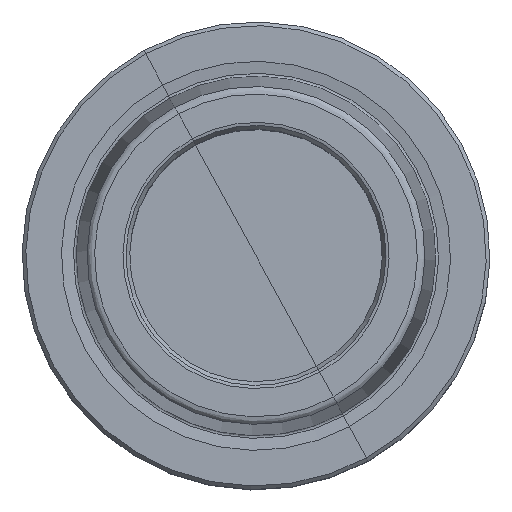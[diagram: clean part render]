
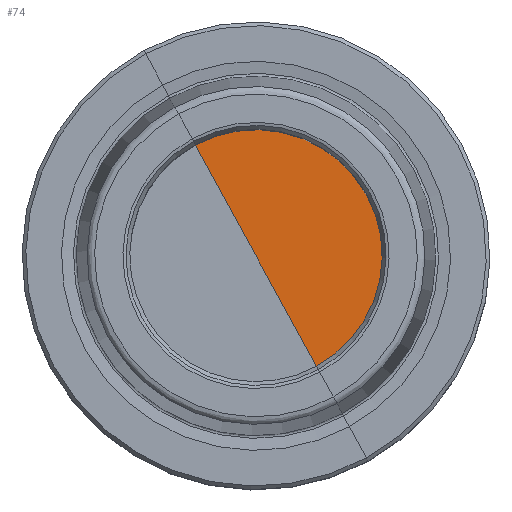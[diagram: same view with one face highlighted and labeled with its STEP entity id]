
A CAD part, top view. The second image highlights one B-rep face of the part: STEP entity #74.
In plain terms, the highlighted planar face has unit normal (0, 0, 1).
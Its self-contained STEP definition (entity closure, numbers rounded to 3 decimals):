
#35=AXIS2_PLACEMENT_3D('Plane Axis2P3D',#32,#33,#34) ;
#66=AXIS2_PLACEMENT_3D('Circle Axis2P3D',#64,#65,$) ;
#32=CARTESIAN_POINT('Axis2P3D Location',(0.,17.,-10.)) ;
#37=CARTESIAN_POINT('Line Origine',(-4.075,7.459,-10.)) ;
#41=CARTESIAN_POINT('Vertex',(0.,0.,-10.)) ;
#43=CARTESIAN_POINT('Vertex',(-8.15,14.919,-10.)) ;
#50=CARTESIAN_POINT('Vertex',(8.15,-14.919,-10.)) ;
#53=CARTESIAN_POINT('Line Origine',(4.075,-7.459,-10.)) ;
#64=CARTESIAN_POINT('Axis2P3D Location',(0.,0.,-10.)) ;
#33=DIRECTION('Axis2P3D Direction',(0.,0.,-1.)) ;
#34=DIRECTION('Axis2P3D XDirection',(0.,-1.,0.)) ;
#38=DIRECTION('Vector Direction',(0.479,-0.878,0.)) ;
#54=DIRECTION('Vector Direction',(-0.479,0.878,0.)) ;
#65=DIRECTION('Axis2P3D Direction',(0.,0.,-1.)) ;
#39=VECTOR('Line Direction',#38,1.) ;
#55=VECTOR('Line Direction',#54,1.) ;
#70=ORIENTED_EDGE('',*,*,#57,.T.) ;
#71=ORIENTED_EDGE('',*,*,#68,.T.) ;
#72=ORIENTED_EDGE('',*,*,#45,.F.) ;
#74=ADVANCED_FACE('NOCUT',(#73),#36,.F.) ;
#67=CIRCLE('generated circle',#66,17.) ;
#45=EDGE_CURVE('',#42,#44,#40,.F.) ;
#57=EDGE_CURVE('',#42,#51,#56,.F.) ;
#68=EDGE_CURVE('',#51,#44,#67,.F.) ;
#69=EDGE_LOOP('',(#70,#71,#72)) ;
#73=FACE_OUTER_BOUND('',#69,.T.) ;
#40=LINE('Line',#37,#39) ;
#56=LINE('Line',#53,#55) ;
#36=PLANE('',#35) ;
#42=VERTEX_POINT('',#41) ;
#44=VERTEX_POINT('',#43) ;
#51=VERTEX_POINT('',#50) ;
